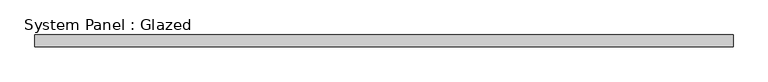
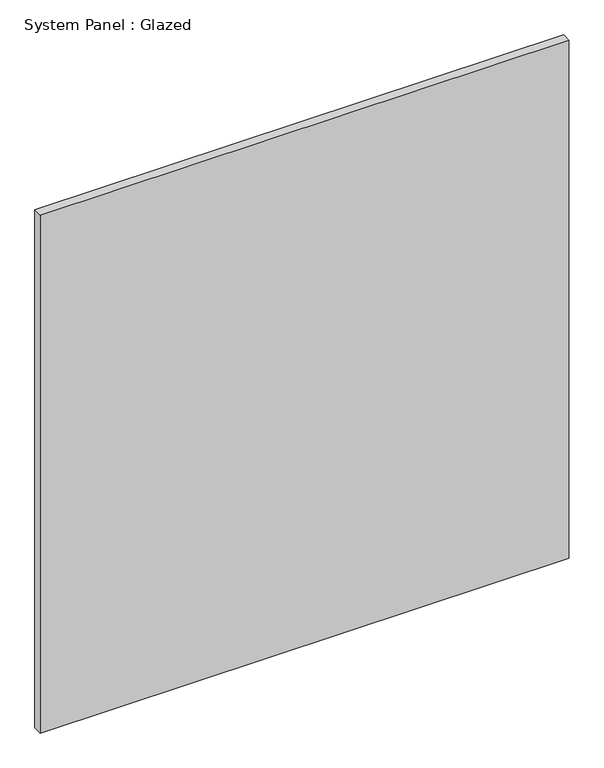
"""IFC4 building model written with IfcOpenShell, lengths in millimetres: plate geometry, System Panel : Glazed."""

from ifc_helpers import new_model, si_unit, origin, origin_with_axes, place, context, project, spatial, polyline, outline, extrude, source, transform, mapped, element, save


def system_panel_glazed_d7d40ffa(model_context):
    return source(origin(), model_context, "Body", "SweptSolid", [
        extrude(outline(polyline([(725.0, 24.5), (-725.0, 24.5), (-725.0, 49.5), (725.0, 49.5), (725.0, 24.5)])), origin_with_axes(), (0.0, 0.0, 1.0), 1501.9163327),
    ])


if __name__ == "__main__":
    model = new_model("IFC4")
    model_context = context("Model", 3, world=origin())
    ifc_project = project(units=[si_unit("LENGTHUNIT", "METRE", prefix="MILLI")], contexts=[model_context])
    site = spatial("IfcSite", under=ifc_project)
    building = spatial("IfcBuilding", under=site)
    placement = place(None, origin())
    system_panel_glazed_shape = system_panel_glazed_d7d40ffa(model_context)
    element("IfcPlate", 1, ObjectType="System Panel : Glazed", at=placement, inside=building, context=model_context, shape_type="MappedRepresentation", body=[
        mapped(system_panel_glazed_shape, transform((0.0, 0.0, 0.0), x_axis=(1.0, 0.0, 0.0), y_axis=(0.0, 1.0, 0.0), z_axis=(0.0, 0.0, 1.0))),
    ])
    save(model, "model.ifc")
